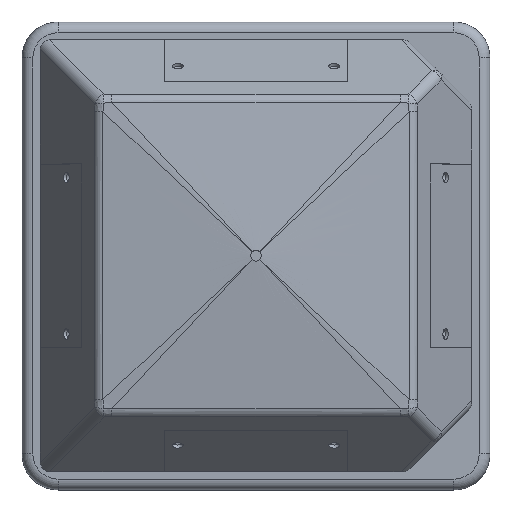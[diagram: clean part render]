
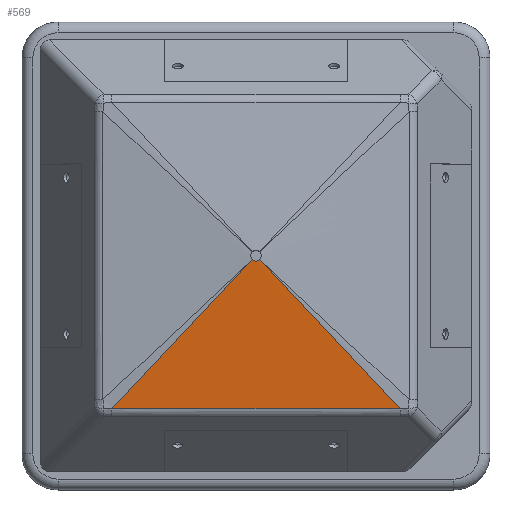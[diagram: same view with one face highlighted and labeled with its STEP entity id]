
A CAD part, top view. The second image highlights one B-rep face of the part: STEP entity #569.
In plain terms, the highlighted free-form (B-spline) face has degree [3, 3] with [16, 4] control points.
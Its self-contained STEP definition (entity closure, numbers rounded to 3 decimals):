
#569=ADVANCED_FACE('',(#3128),#3130,.T.);
#3128=FACE_BOUND('',#3129,.T.);
#3129=EDGE_LOOP('',(#5651,#5652,#5653,#5654));
#3130=B_SPLINE_SURFACE_WITH_KNOTS('',3,3,(
(#3131,#3132,#3133,#3134),
(#3135,#3136,#3137,#3138),
(#3139,#3140,#3141,#3142),
(#3143,#3144,#3145,#3146),
(#3147,#3148,#3149,#3150),
(#3151,#3152,#3153,#3154),
(#3155,#3156,#3157,#3158),
(#3159,#3160,#3161,#3162),
(#3163,#3164,#3165,#3166),
(#3167,#3168,#3169,#3170),
(#3171,#3172,#3173,#3174),
(#3175,#3176,#3177,#3178),
(#3179,#3180,#3181,#3182),
(#3183,#3184,#3185,#3186),
(#3187,#3188,#3189,#3190),
(#3191,#3192,#3193,#3194)),
.UNSPECIFIED.,.F.,.F.,.F.,
(4,1,1,1,1,1,1,1,1,1,1,1,1,4),
(4,4),
(0.,0.126,0.251,0.377,0.503,0.628,
0.754,0.88,1.005,1.131,1.257,
1.383,1.509,1.51),
(0.,0.965),
.UNSPECIFIED.);
#3131=CARTESIAN_POINT('',(-1.028,-1.092,-5.));
#3132=CARTESIAN_POINT('',(-14.021,-14.898,-3.391));
#3133=CARTESIAN_POINT('',(-27.014,-28.704,-1.782));
#3134=CARTESIAN_POINT('',(-40.006,-42.51,-0.174));
#3135=CARTESIAN_POINT('',(-0.982,-1.135,-5.));
#3136=CARTESIAN_POINT('',(-13.251,-14.928,-3.391));
#3137=CARTESIAN_POINT('',(-25.519,-28.72,-1.782));
#3138=CARTESIAN_POINT('',(-37.787,-42.512,-0.174));
#3139=CARTESIAN_POINT('',(-0.885,-1.216,-5.));
#3140=CARTESIAN_POINT('',(-11.706,-14.982,-3.391));
#3141=CARTESIAN_POINT('',(-22.528,-28.748,-1.782));
#3142=CARTESIAN_POINT('',(-33.349,-42.515,-0.174));
#3143=CARTESIAN_POINT('',(-0.726,-1.317,-5.));
#3144=CARTESIAN_POINT('',(-9.381,-15.051,-3.391));
#3145=CARTESIAN_POINT('',(-18.036,-28.785,-1.782));
#3146=CARTESIAN_POINT('',(-26.69,-42.518,-0.174));
#3147=CARTESIAN_POINT('',(-0.555,-1.398,-5.));
#3148=CARTESIAN_POINT('',(-7.047,-15.106,-3.391));
#3149=CARTESIAN_POINT('',(-13.539,-28.813,-1.782));
#3150=CARTESIAN_POINT('',(-20.032,-42.521,-0.174));
#3151=CARTESIAN_POINT('',(-0.376,-1.456,-5.));
#3152=CARTESIAN_POINT('',(-4.708,-15.145,-3.391));
#3153=CARTESIAN_POINT('',(-9.04,-28.834,-1.782));
#3154=CARTESIAN_POINT('',(-13.373,-42.523,-0.174));
#3155=CARTESIAN_POINT('',(-0.19,-1.492,-5.));
#3156=CARTESIAN_POINT('',(-2.364,-15.169,-3.391));
#3157=CARTESIAN_POINT('',(-4.539,-28.847,-1.782));
#3158=CARTESIAN_POINT('',(-6.713,-42.524,-0.174));
#3159=CARTESIAN_POINT('',(-0.002,-1.504,-5.));
#3160=CARTESIAN_POINT('',(-0.019,-15.178,-3.391));
#3161=CARTESIAN_POINT('',(-0.037,-28.851,-1.782));
#3162=CARTESIAN_POINT('',(-0.054,-42.525,-0.174));
#3163=CARTESIAN_POINT('',(0.187,-1.492,-5.));
#3164=CARTESIAN_POINT('',(2.326,-15.17,-3.391));
#3165=CARTESIAN_POINT('',(4.466,-28.847,-1.782));
#3166=CARTESIAN_POINT('',(6.605,-42.524,-0.174));
#3167=CARTESIAN_POINT('',(0.373,-1.457,-5.));
#3168=CARTESIAN_POINT('',(4.67,-15.146,-3.391));
#3169=CARTESIAN_POINT('',(8.968,-28.834,-1.782));
#3170=CARTESIAN_POINT('',(13.265,-42.523,-0.174));
#3171=CARTESIAN_POINT('',(0.552,-1.399,-5.));
#3172=CARTESIAN_POINT('',(7.01,-15.106,-3.391));
#3173=CARTESIAN_POINT('',(13.469,-28.814,-1.782));
#3174=CARTESIAN_POINT('',(19.927,-42.521,-0.174));
#3175=CARTESIAN_POINT('',(0.724,-1.318,-5.));
#3176=CARTESIAN_POINT('',(9.347,-15.052,-3.391));
#3177=CARTESIAN_POINT('',(17.971,-28.785,-1.782));
#3178=CARTESIAN_POINT('',(26.594,-42.518,-0.174));
#3179=CARTESIAN_POINT('',(0.884,-1.217,-5.));
#3180=CARTESIAN_POINT('',(11.68,-14.983,-3.391));
#3181=CARTESIAN_POINT('',(22.476,-28.749,-1.782));
#3182=CARTESIAN_POINT('',(33.273,-42.515,-0.174));
#3183=CARTESIAN_POINT('',(0.981,-1.136,-5.));
#3184=CARTESIAN_POINT('',(13.236,-14.928,-3.391));
#3185=CARTESIAN_POINT('',(25.49,-28.72,-1.782));
#3186=CARTESIAN_POINT('',(37.745,-42.512,-0.174));
#3187=CARTESIAN_POINT('',(1.028,-1.093,-5.));
#3188=CARTESIAN_POINT('',(14.015,-14.899,-3.391));
#3189=CARTESIAN_POINT('',(27.003,-28.705,-1.782));
#3190=CARTESIAN_POINT('',(39.991,-42.51,-0.174));
#3191=CARTESIAN_POINT('',(1.028,-1.092,-5.));
#3192=CARTESIAN_POINT('',(14.021,-14.898,-3.391));
#3193=CARTESIAN_POINT('',(27.014,-28.704,-1.782));
#3194=CARTESIAN_POINT('',(40.006,-42.51,-0.174));
#5651=ORIENTED_EDGE('',*,*,#6740,.T.);
#5652=ORIENTED_EDGE('',*,*,#6777,.F.);
#5653=ORIENTED_EDGE('',*,*,#6778,.T.);
#5654=ORIENTED_EDGE('',*,*,#6779,.T.);
#6740=EDGE_CURVE('',#7719,#7716,#7720,.T.);
#6777=EDGE_CURVE('',#7774,#7716,#7776,.T.);
#6778=EDGE_CURVE('',#7774,#7777,#7778,.T.);
#6779=EDGE_CURVE('',#7777,#7719,#7779,.T.);
#7716=VERTEX_POINT('',#10095);
#7719=VERTEX_POINT('',#10129);
#7720=B_SPLINE_CURVE_WITH_KNOTS('',3,
(#10130,#10131,#10132,#10133,#10134,#10135),
.UNSPECIFIED.,.F.,.F.,
(4,1,1,4),
(0.,0.333,0.667,1.),
.UNSPECIFIED.);
#7774=VERTEX_POINT('',#10476);
#7776=LINE('',#10481,#10482);
#7777=VERTEX_POINT('',#10484);
#7778=CIRCLE('',#10485,1.5);
#7779=LINE('',#10489,#10490);
#10095=CARTESIAN_POINT('',(-40.006,-42.51,-0.174));
#10129=CARTESIAN_POINT('',(40.006,-42.51,-0.174));
#10130=CARTESIAN_POINT('',(40.006,-42.51,-0.174));
#10131=CARTESIAN_POINT('',(31.116,-42.512,-0.174));
#10132=CARTESIAN_POINT('',(13.335,-42.513,-0.175));
#10133=CARTESIAN_POINT('',(-13.335,-42.513,-0.175));
#10134=CARTESIAN_POINT('',(-31.116,-42.512,-0.174));
#10135=CARTESIAN_POINT('',(-40.006,-42.51,-0.174));
#10476=CARTESIAN_POINT('',(-1.028,-1.092,-5.));
#10481=CARTESIAN_POINT('',(-1.028,-1.092,-5.));
#10482=VECTOR('',#10483,1.);
#10483=DIRECTION('',(-0.683,-0.726,0.085));
#10484=CARTESIAN_POINT('',(1.028,-1.092,-5.));
#10485=AXIS2_PLACEMENT_3D('',#10486,#10487,#10488);
#10486=CARTESIAN_POINT('',(0.,0.,-5.));
#10487=DIRECTION('',(0.,0.,1.));
#10488=DIRECTION('',(-0.685,-0.728,0.));
#10489=CARTESIAN_POINT('',(1.028,-1.092,-5.));
#10490=VECTOR('',#10491,1.);
#10491=DIRECTION('',(0.683,-0.726,0.085));
